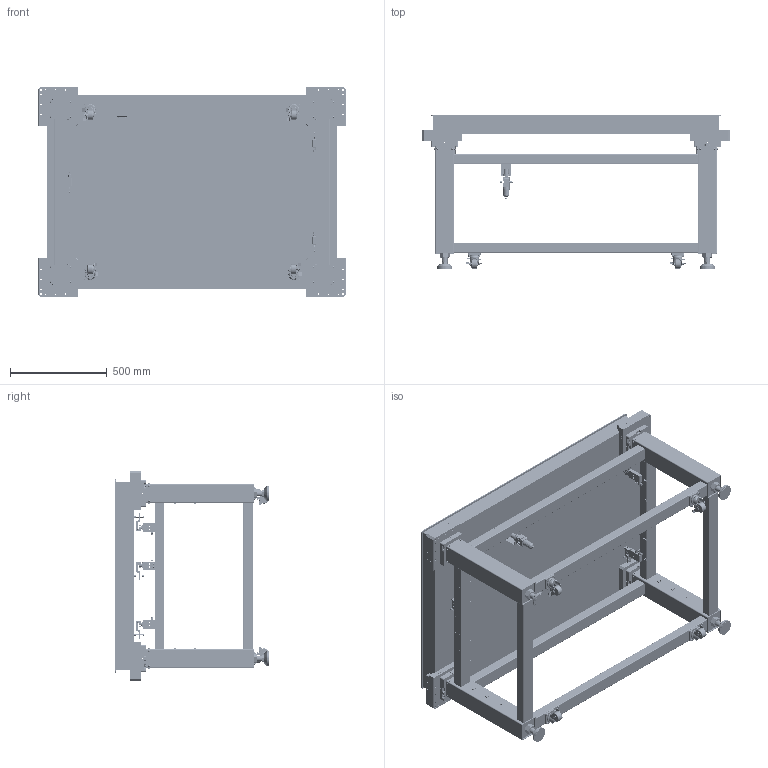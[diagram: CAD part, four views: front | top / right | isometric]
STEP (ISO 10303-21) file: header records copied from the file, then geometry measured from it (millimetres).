
FILE_DESCRIPTION (( 'STEP AP203' ), '1' );
FILE_NAME ('NAP15-10(AP203).STEP', '2022-03-09T06:05:28', ( '' ), ( '' ), 'SwSTEP 2.0', 'SolidWorks 2021', '' );
FILE_SCHEMA (( 'CONFIG_CONTROL_DESIGN' ));
Length unit declared in the file: millimetre
Products named in the file (1): NAP15-10(AP203)
Bounding box: 1589.3 x 800 x 1084.5 mm (x, y, z)
Surface area: 11319786.5 mm2 (no closed solid volume)
Topology: 0 solids, 423 shells, 6468 faces, 21566 edges, 15270 vertices
Faces by surface type: cylinder 5095, plane 1136, sphere 70, bspline 68, cone 57, torus 42
Entity records: 257247 total; most frequent: CARTESIAN_POINT 50958, DIRECTION 46218, ORIENTED_EDGE 37797, EDGE_CURVE 21560, AXIS2_PLACEMENT_3D 18702, VERTEX_POINT 15270, CIRCLE 12301, EDGE_LOOP 11563
